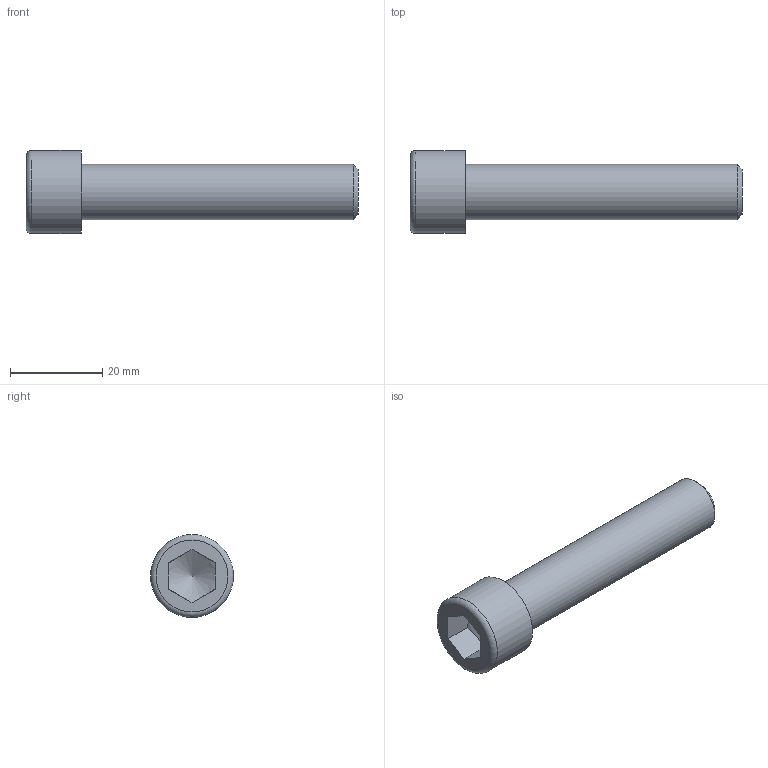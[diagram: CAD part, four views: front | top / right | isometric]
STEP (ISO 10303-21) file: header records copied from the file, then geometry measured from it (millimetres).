
FILE_DESCRIPTION((''),'2;1');
FILE_NAME('E:\catalogue and flyer\Profile catalogue 2015\Accessories JE info\Accessories-JE step file 31MAr16\JE-CS12x60.stp','2016-04-07T11:43:20',('h029'),(''),'Autodesk Inventor 11','Autodesk Inventor 11','');
FILE_SCHEMA(('AUTOMOTIVE_DESIGN { 1 0 10303 214 1 1 1 1 }'));
Length unit declared in the file: millimetre
Products named in the file (1): NF E 25-125  (Regular Thread) M12 x 60
Bounding box: 72 x 18 x 18 mm (x, y, z)
Volume: 9169.3 mm3; surface area: 3625.9 mm2
Topology: 1 solids, 1 shells, 14 faces, 30 edges, 19 vertices
Faces by surface type: plane 9, cone 2, cylinder 2, torus 1
Full cylindrical faces by diameter (mm): 12 x1, 18 x1
Entity records: 359 total; most frequent: CARTESIAN_POINT 69, DIRECTION 54, ORIENTED_EDGE 48, EDGE_CURVE 24, AXIS2_PLACEMENT_3D 21, EDGE_LOOP 20, VERTEX_POINT 18, FACE_OUTER_BOUND 14
